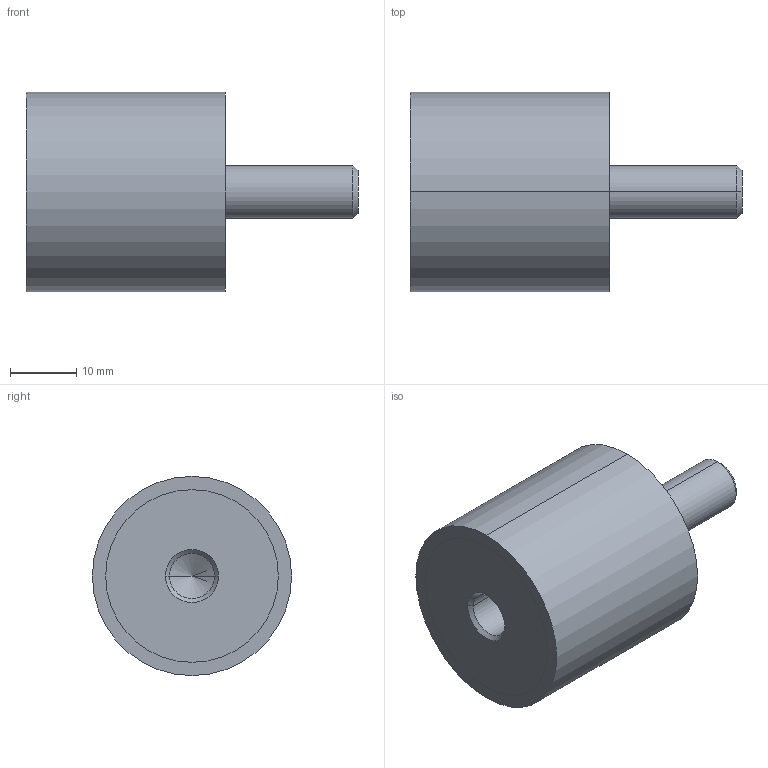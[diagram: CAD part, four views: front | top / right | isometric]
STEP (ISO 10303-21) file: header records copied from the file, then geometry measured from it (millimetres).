
FILE_DESCRIPTION (( 'STEP AP214' ), '1' );
FILE_NAME ('351-30-30-M8-ES-55.step', '2025-07-23T09:50:19', ( '' ), ( '' ), 'SwSTEP 2.0', 'SolidWorks 2022', '' );
FILE_SCHEMA (( 'AUTOMOTIVE_DESIGN' ));
Length unit declared in the file: millimetre
Products named in the file (1): 351-30-30-M8-ES-55
Bounding box: 50 x 30 x 30 mm (x, y, z)
Volume: 21840.2 mm3; surface area: 4923.4 mm2
Topology: 1 solids, 1 shells, 24 faces, 48 edges, 29 vertices
Faces by surface type: cylinder 12, cone 6, plane 6
Entity records: 740 total; most frequent: DIRECTION 124, CARTESIAN_POINT 100, ORIENTED_EDGE 92, AXIS2_PLACEMENT_3D 53, EDGE_CURVE 46, EDGE_LOOP 29, VERTEX_POINT 29, CIRCLE 28
